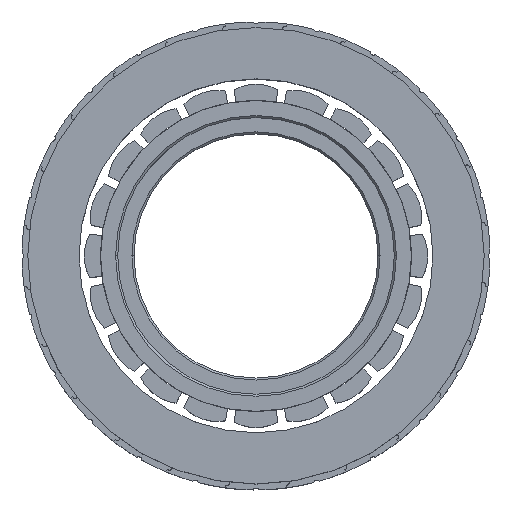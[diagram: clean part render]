
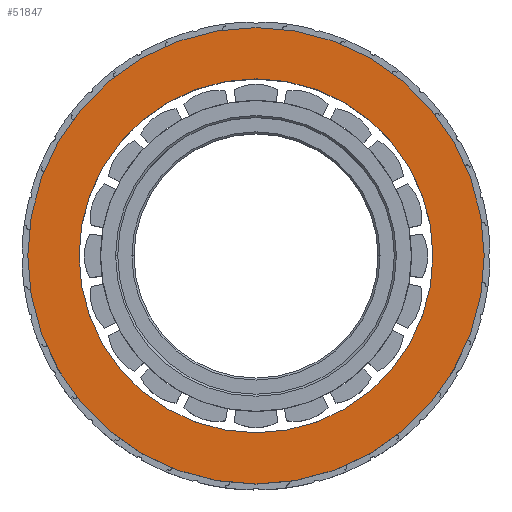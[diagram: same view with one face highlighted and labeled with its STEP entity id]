
A CAD part, top view. The second image highlights one B-rep face of the part: STEP entity #51847.
In plain terms, the highlighted planar face has unit normal (0, 0, 1).
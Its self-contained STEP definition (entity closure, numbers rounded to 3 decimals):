
#1343 = CARTESIAN_POINT ( 'NONE',  ( 43.5, 0., 39.8 ) ) ;
#1695 = VERTEX_POINT ( 'NONE', #1343 ) ;
#2003 = EDGE_CURVE ( 'NONE', #53366, #1695, #33658, .T. ) ;
#3201 = AXIS2_PLACEMENT_3D ( 'NONE', #63242, #20541, #52313 ) ;
#3349 = VERTEX_POINT ( 'NONE', #28349 ) ;
#6431 = DIRECTION ( 'NONE',  ( 1., 0., 0. ) ) ;
#9133 = CARTESIAN_POINT ( 'NONE',  ( 0., 0., 39.8 ) ) ;
#11384 = FACE_OUTER_BOUND ( 'NONE', #47912, .T. ) ;
#13104 = EDGE_CURVE ( 'NONE', #1695, #53366, #52527, .T. ) ;
#13378 = ORIENTED_EDGE ( 'NONE', *, *, #31312, .T. ) ;
#17191 = CARTESIAN_POINT ( 'NONE',  ( 0., 0., 39.8 ) ) ;
#17339 = CARTESIAN_POINT ( 'NONE',  ( 0., 0., 39.8 ) ) ;
#20541 = DIRECTION ( 'NONE',  ( 0., 0., 1. ) ) ;
#26004 = ORIENTED_EDGE ( 'NONE', *, *, #55559, .T. ) ;
#28349 = CARTESIAN_POINT ( 'NONE',  ( -56.1, 0., 39.8 ) ) ;
#30000 = ORIENTED_EDGE ( 'NONE', *, *, #2003, .F. ) ;
#31312 = EDGE_CURVE ( 'NONE', #56712, #3349, #62957, .T. ) ;
#32239 = CARTESIAN_POINT ( 'NONE',  ( 0., 0., 39.8 ) ) ;
#32896 = FACE_BOUND ( 'NONE', #69065, .T. ) ;
#33594 = DIRECTION ( 'NONE',  ( 1., 0., 0. ) ) ;
#33658 = CIRCLE ( 'NONE', #38156, 43.5 ) ;
#34995 = CIRCLE ( 'NONE', #36087, 56.1 ) ;
#36087 = AXIS2_PLACEMENT_3D ( 'NONE', #9133, #46538, #68395 ) ;
#37966 = AXIS2_PLACEMENT_3D ( 'NONE', #32239, #54080, #6431 ) ;
#38156 = AXIS2_PLACEMENT_3D ( 'NONE', #17191, #61287, #50015 ) ;
#43465 = PLANE ( 'NONE',  #53953 ) ;
#45736 = CARTESIAN_POINT ( 'NONE',  ( -43.5, 0., 39.8 ) ) ;
#46538 = DIRECTION ( 'NONE',  ( 0., 0., 1. ) ) ;
#47912 = EDGE_LOOP ( 'NONE', ( #26004, #13378 ) ) ;
#50015 = DIRECTION ( 'NONE',  ( 1., 0., 0. ) ) ;
#51847 = ADVANCED_FACE ( 'NONE', ( #11384, #32896 ), #43465, .T. ) ;
#52313 = DIRECTION ( 'NONE',  ( 1., 0., 0. ) ) ;
#52527 = CIRCLE ( 'NONE', #37966, 43.5 ) ;
#53366 = VERTEX_POINT ( 'NONE', #45736 ) ;
#53953 = AXIS2_PLACEMENT_3D ( 'NONE', #17339, #64984, #33594 ) ;
#54080 = DIRECTION ( 'NONE',  ( 0., 0., 1. ) ) ;
#55559 = EDGE_CURVE ( 'NONE', #3349, #56712, #34995, .T. ) ;
#56712 = VERTEX_POINT ( 'NONE', #67030 ) ;
#59990 = ORIENTED_EDGE ( 'NONE', *, *, #13104, .F. ) ;
#61287 = DIRECTION ( 'NONE',  ( 0., 0., 1. ) ) ;
#62957 = CIRCLE ( 'NONE', #3201, 56.1 ) ;
#63242 = CARTESIAN_POINT ( 'NONE',  ( 0., 0., 39.8 ) ) ;
#64984 = DIRECTION ( 'NONE',  ( 0., 0., 1. ) ) ;
#67030 = CARTESIAN_POINT ( 'NONE',  ( 56.1, 0., 39.8 ) ) ;
#68395 = DIRECTION ( 'NONE',  ( 1., 0., 0. ) ) ;
#69065 = EDGE_LOOP ( 'NONE', ( #30000, #59990 ) ) ;
